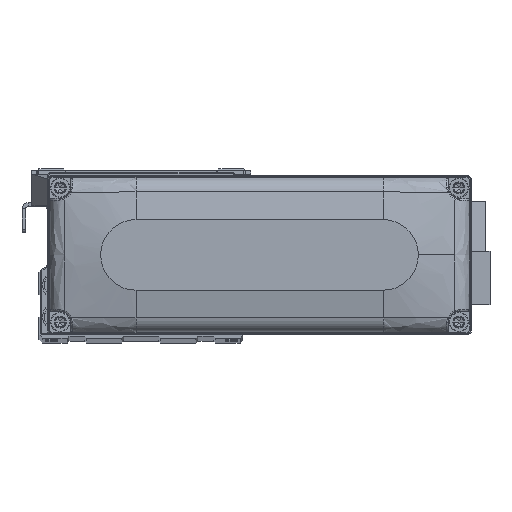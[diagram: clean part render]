
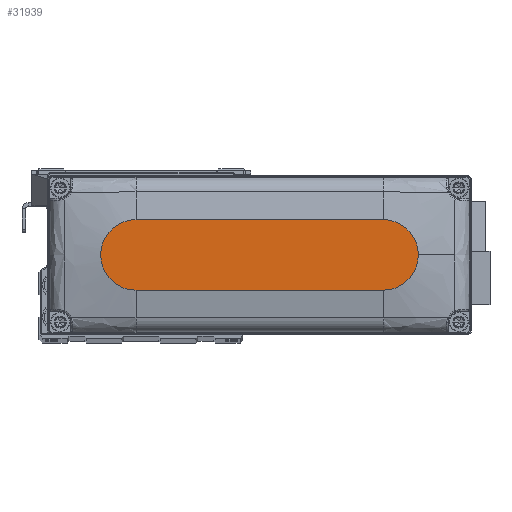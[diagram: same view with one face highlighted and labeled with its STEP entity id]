
A CAD part, top view. The second image highlights one B-rep face of the part: STEP entity #31939.
In plain terms, the highlighted planar face has unit normal (0, 0, 1).
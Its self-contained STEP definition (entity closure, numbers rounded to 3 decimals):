
#284 = AXIS2_PLACEMENT_3D ( 'NONE', #6269, #20059, #33850 ) ;
#333 = ORIENTED_EDGE ( 'NONE', *, *, #24151, .T. ) ;
#461 = DIRECTION ( 'NONE',  ( 1., 0., 0. ) ) ;
#2085 = VERTEX_POINT ( 'NONE', #35874 ) ;
#3137 = AXIS2_PLACEMENT_3D ( 'NONE', #17661, #31468, #461 ) ;
#3893 = AXIS2_PLACEMENT_3D ( 'NONE', #40688, #9698, #23520 ) ;
#6269 = CARTESIAN_POINT ( 'NONE',  ( 0., 0., 28. ) ) ;
#7002 = ORIENTED_EDGE ( 'NONE', *, *, #39873, .T. ) ;
#7893 = CARTESIAN_POINT ( 'NONE',  ( 45., 0., 28. ) ) ;
#8975 = EDGE_CURVE ( 'NONE', #18446, #35433, #22656, .T. ) ;
#9698 = DIRECTION ( 'NONE',  ( 0., 0., 1. ) ) ;
#10089 = DIRECTION ( 'NONE',  ( -1., 0., 0. ) ) ;
#12048 = DIRECTION ( 'NONE',  ( 0., 0., 1. ) ) ;
#12433 = CARTESIAN_POINT ( 'NONE',  ( -35., -10., 28. ) ) ;
#12462 = VECTOR ( 'NONE', #26238, 1000. ) ;
#14099 = CARTESIAN_POINT ( 'NONE',  ( 35., 10., 28. ) ) ;
#16951 = VECTOR ( 'NONE', #10089, 1000. ) ;
#17661 = CARTESIAN_POINT ( 'NONE',  ( 35., 0., 28. ) ) ;
#18446 = VERTEX_POINT ( 'NONE', #7893 ) ;
#20059 = DIRECTION ( 'NONE',  ( 0., 0., 1. ) ) ;
#20669 = AXIS2_PLACEMENT_3D ( 'NONE', #43032, #12048, #25852 ) ;
#22285 = VERTEX_POINT ( 'NONE', #40600 ) ;
#22656 = CIRCLE ( 'NONE', #3137, 10. ) ;
#23419 = CIRCLE ( 'NONE', #3893, 10. ) ;
#23455 = FACE_OUTER_BOUND ( 'NONE', #30559, .T. ) ;
#23520 = DIRECTION ( 'NONE',  ( 1., 0., 0. ) ) ;
#23629 = EDGE_CURVE ( 'NONE', #42034, #2085, #23419, .T. ) ;
#24151 = EDGE_CURVE ( 'NONE', #35433, #42034, #27308, .T. ) ;
#25852 = DIRECTION ( 'NONE',  ( 1., 0., 0. ) ) ;
#26238 = DIRECTION ( 'NONE',  ( 1., 0., 0. ) ) ;
#26375 = ORIENTED_EDGE ( 'NONE', *, *, #23629, .T. ) ;
#26426 = CARTESIAN_POINT ( 'NONE',  ( -35., 10., 28. ) ) ;
#27308 = LINE ( 'NONE', #41086, #16951 ) ;
#30299 = ORIENTED_EDGE ( 'NONE', *, *, #30390, .T. ) ;
#30390 = EDGE_CURVE ( 'NONE', #2085, #22285, #43422, .T. ) ;
#30559 = EDGE_LOOP ( 'NONE', ( #333, #26375, #30299, #7002, #41222 ) ) ;
#31468 = DIRECTION ( 'NONE',  ( 0., 0., 1. ) ) ;
#31939 = ADVANCED_FACE ( 'NONE', ( #23455 ), #37233, .T. ) ;
#33850 = DIRECTION ( 'NONE',  ( 1., 0., 0. ) ) ;
#35433 = VERTEX_POINT ( 'NONE', #14099 ) ;
#35874 = CARTESIAN_POINT ( 'NONE',  ( -35., -10., 28. ) ) ;
#37233 = PLANE ( 'NONE',  #284 ) ;
#39873 = EDGE_CURVE ( 'NONE', #22285, #18446, #40151, .T. ) ;
#40151 = CIRCLE ( 'NONE', #20669, 10. ) ;
#40600 = CARTESIAN_POINT ( 'NONE',  ( 35., -10., 28. ) ) ;
#40688 = CARTESIAN_POINT ( 'NONE',  ( -35., 0., 28. ) ) ;
#41086 = CARTESIAN_POINT ( 'NONE',  ( -35., 10., 28. ) ) ;
#41222 = ORIENTED_EDGE ( 'NONE', *, *, #8975, .T. ) ;
#42034 = VERTEX_POINT ( 'NONE', #26426 ) ;
#43032 = CARTESIAN_POINT ( 'NONE',  ( 35., 0., 28. ) ) ;
#43422 = LINE ( 'NONE', #12433, #12462 ) ;
